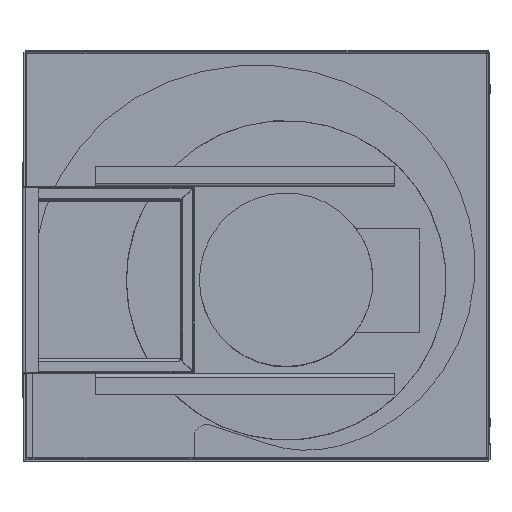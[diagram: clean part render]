
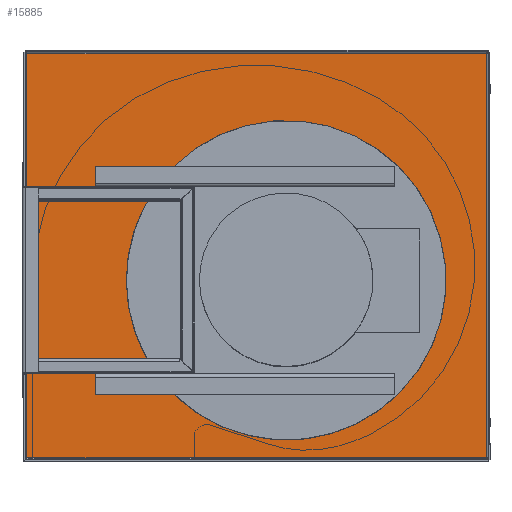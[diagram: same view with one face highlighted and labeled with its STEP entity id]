
A CAD part, top view. The second image highlights one B-rep face of the part: STEP entity #15885.
In plain terms, the highlighted planar face has unit normal (0, 0, 1).
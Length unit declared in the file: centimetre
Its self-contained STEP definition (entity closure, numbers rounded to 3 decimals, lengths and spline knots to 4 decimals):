
#629=FACE_BOUND('',#2763,.T.);
#912=PLANE('',#16619);
#1198=CIRCLE('',#16620,19.6);
#1889=FACE_OUTER_BOUND('',#2762,.T.);
#2762=EDGE_LOOP('',(#12780,#12781,#12782,#12783));
#2763=EDGE_LOOP('',(#12784));
#3933=LINE('',#28075,#5293);
#3934=LINE('',#28077,#5294);
#3935=LINE('',#28079,#5295);
#3936=LINE('',#28080,#5296);
#5293=VECTOR('',#18557,56.4);
#5294=VECTOR('',#18558,49.6);
#5295=VECTOR('',#18559,56.4);
#5296=VECTOR('',#18560,49.6);
#7558=VERTEX_POINT('',#28073);
#7559=VERTEX_POINT('',#28074);
#7560=VERTEX_POINT('',#28076);
#7561=VERTEX_POINT('',#28078);
#7562=VERTEX_POINT('',#28081);
#9510=EDGE_CURVE('',#7558,#7559,#3933,.T.);
#9511=EDGE_CURVE('',#7559,#7560,#3934,.T.);
#9512=EDGE_CURVE('',#7560,#7561,#3935,.T.);
#9513=EDGE_CURVE('',#7561,#7558,#3936,.T.);
#9514=EDGE_CURVE('',#7562,#7562,#1198,.T.);
#12780=ORIENTED_EDGE('',*,*,#9510,.T.);
#12781=ORIENTED_EDGE('',*,*,#9511,.T.);
#12782=ORIENTED_EDGE('',*,*,#9512,.T.);
#12783=ORIENTED_EDGE('',*,*,#9513,.T.);
#12784=ORIENTED_EDGE('',*,*,#9514,.T.);
#15885=ADVANCED_FACE('',(#1889,#629),#912,.F.);
#16619=AXIS2_PLACEMENT_3D('',#28072,#18555,#18556);
#16620=AXIS2_PLACEMENT_3D('',#28082,#18561,#18562);
#18555=DIRECTION('center_axis',(0.,0.,
-1.));
#18556=DIRECTION('ref_axis',(-1.,0.,0.));
#18557=DIRECTION('',(1.,0.,0.));
#18558=DIRECTION('',(0.,1.,0.));
#18559=DIRECTION('',(-1.,0.,0.));
#18560=DIRECTION('',(0.,-1.,0.));
#18561=DIRECTION('center_axis',(0.,0.,
-1.));
#18562=DIRECTION('ref_axis',(0.383,0.924,0.));
#28072=CARTESIAN_POINT('Origin',(75.6784,121.1142,0.2));
#28073=CARTESIAN_POINT('',(23.5371,86.5791,0.2));
#28074=CARTESIAN_POINT('',(79.9371,86.5791,0.2));
#28075=CARTESIAN_POINT('',(37.5371,86.5791,0.2));
#28076=CARTESIAN_POINT('',(79.9371,136.1791,0.2));
#28077=CARTESIAN_POINT('',(79.9371,98.8791,0.2));
#28078=CARTESIAN_POINT('',(23.5371,136.1791,0.2));
#28079=CARTESIAN_POINT('',(65.8371,136.1791,0.2));
#28080=CARTESIAN_POINT('',(23.5371,123.7791,0.2));
#28081=CARTESIAN_POINT('',(47.8365,90.271,0.2));
#28082=CARTESIAN_POINT('Origin',(55.3371,108.3791,0.2));
